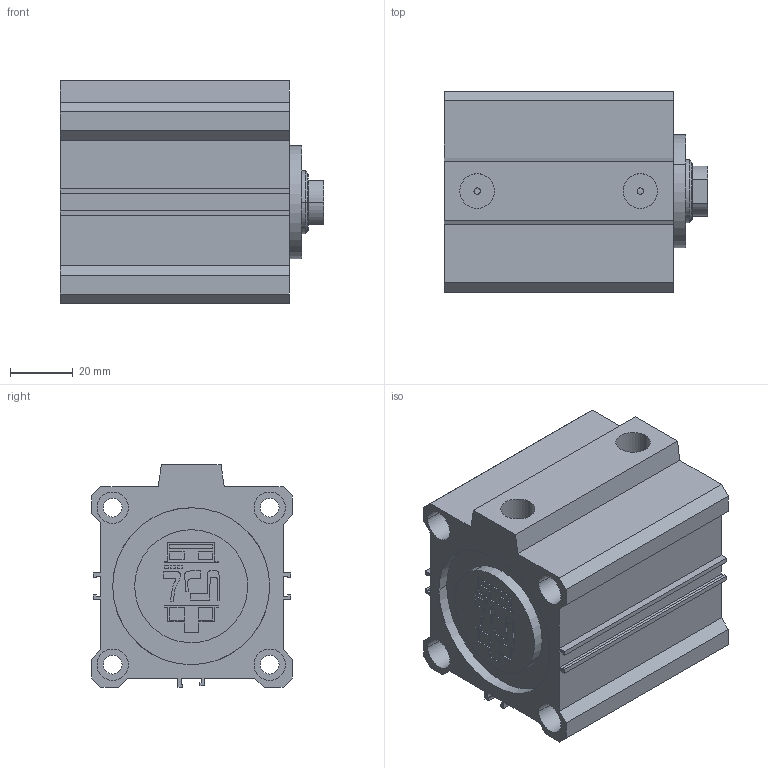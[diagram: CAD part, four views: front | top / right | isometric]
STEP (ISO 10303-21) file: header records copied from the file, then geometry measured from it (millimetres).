
FILE_DESCRIPTION(('CATIA V5 STEP Exchange'),'2;1');
FILE_NAME('D:\PDA\PDA-STP\PDA 50-20\PDA 50-20-35.stp','2016-02-03T05:38:23+00:00',('none'),('none'),'Version 5-6 Release 2012','CATIA V5 STEP AP203','none');
FILE_SCHEMA(('CONFIG_CONTROL_DESIGN'));
Length unit declared in the file: millimetre
Products named in the file (1): PDA 50-20-35-00
Assembly tree (2 placements, depth 2):
  PDA 50-20-35-00
    #58
    #6574
Bounding box: 84 x 64 x 71 mm (x, y, z)
Volume: 204628.7 mm3; surface area: 62555 mm2
Topology: 2 solids, 2 shells, 248 faces, 640 edges, 428 vertices
Faces by surface type: plane 172, cylinder 72, cone 2, torus 2
Entity records: 7094 total; most frequent: ORIENTED_EDGE 1280, CARTESIAN_POINT 1265, DIRECTION 966, EDGE_CURVE 640, VECTOR 482, LINE 482, VERTEX_POINT 428, AXIS2_PLACEMENT_3D 319
